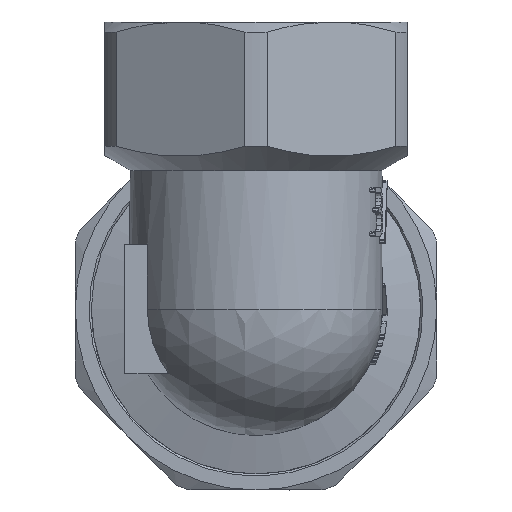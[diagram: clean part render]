
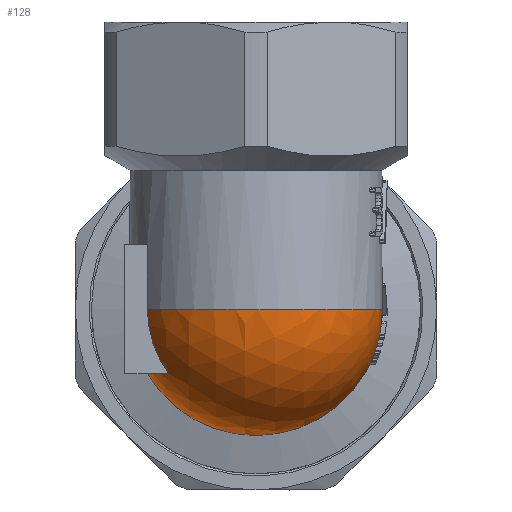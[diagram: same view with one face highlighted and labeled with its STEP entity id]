
A CAD part, front view. The second image highlights one B-rep face of the part: STEP entity #128.
In plain terms, the highlighted spherical face has radius 12.75 mm.
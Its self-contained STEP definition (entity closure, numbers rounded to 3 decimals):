
#128=ADVANCED_FACE('',(#1133),#1135,.T.);
#1133=FACE_BOUND('',#1134,.T.);
#1134=EDGE_LOOP('',(#3231,#3232,#3233,#3234));
#1135=SPHERICAL_SURFACE('',#1136,12.75);
#1136=AXIS2_PLACEMENT_3D('',#1137,#1138,#1139);
#1137=CARTESIAN_POINT('',(0.,0.,0.));
#1138=DIRECTION('',(-1.,0.,0.));
#1139=DIRECTION('',(0.,0.,-1.));
#3231=ORIENTED_EDGE('',*,*,#5322,.T.);
#3232=ORIENTED_EDGE('',*,*,#5323,.F.);
#3233=ORIENTED_EDGE('',*,*,#5324,.F.);
#3234=ORIENTED_EDGE('',*,*,#5199,.T.);
#5199=EDGE_CURVE('',#6212,#6213,#6214,.F.);
#5322=EDGE_CURVE('',#6213,#6452,#6453,.T.);
#5323=EDGE_CURVE('',#6454,#6452,#6455,.F.);
#5324=EDGE_CURVE('',#6212,#6454,#6456,.T.);
#6212=VERTEX_POINT('',#9136);
#6213=VERTEX_POINT('',#9137);
#6214=CIRCLE('',#9138,12.75);
#6452=VERTEX_POINT('',#10502);
#6453=CIRCLE('',#10503,12.75);
#6454=VERTEX_POINT('',#10507);
#6455=CIRCLE('',#10508,10.964);
#6456=CIRCLE('',#10512,10.964);
#9136=CARTESIAN_POINT('',(-10.964,0.,-6.508));
#9137=CARTESIAN_POINT('',(12.75,0.,0.));
#9138=AXIS2_PLACEMENT_3D('',#9139,#9140,#9141);
#9139=CARTESIAN_POINT('',(0.,0.,0.));
#9140=DIRECTION('',(0.,1.,0.));
#9141=DIRECTION('',(1.,0.,0.));
#10502=CARTESIAN_POINT('',(-10.964,-6.508,0.));
#10503=AXIS2_PLACEMENT_3D('',#10504,#10505,#10506);
#10504=CARTESIAN_POINT('',(0.,0.,0.));
#10505=DIRECTION('',(0.,0.,-1.));
#10506=DIRECTION('',(1.,0.,0.));
#10507=CARTESIAN_POINT('',(-8.823,-6.508,-6.508));
#10508=AXIS2_PLACEMENT_3D('',#10509,#10510,#10511);
#10509=CARTESIAN_POINT('',(0.,-6.508,0.));
#10510=DIRECTION('',(0.,-1.,0.));
#10511=DIRECTION('',(-1.,0.,0.));
#10512=AXIS2_PLACEMENT_3D('',#10513,#10514,#10515);
#10513=CARTESIAN_POINT('',(0.,0.,-6.508));
#10514=DIRECTION('',(0.,0.,1.));
#10515=DIRECTION('',(-1.,0.,0.));
